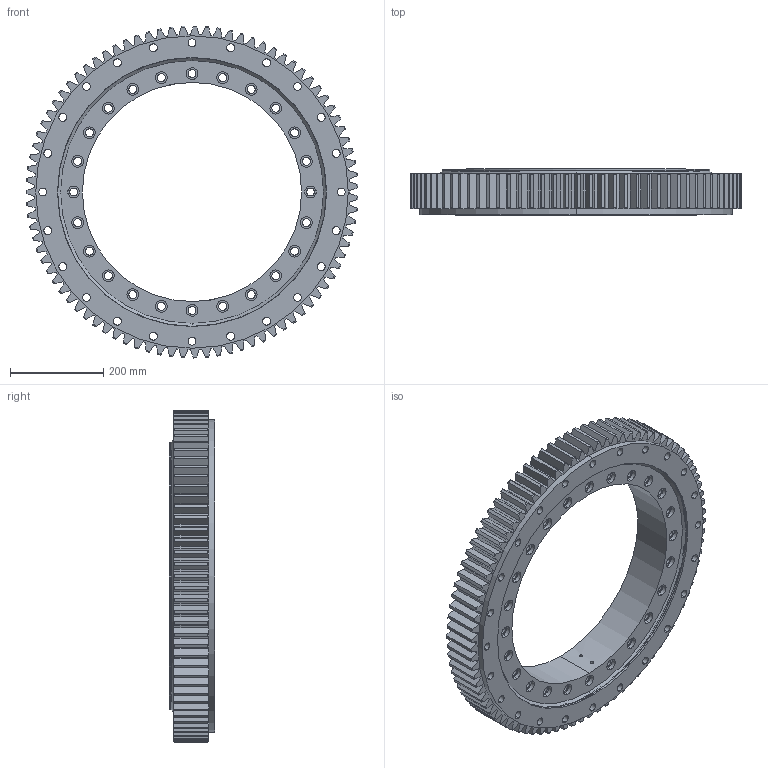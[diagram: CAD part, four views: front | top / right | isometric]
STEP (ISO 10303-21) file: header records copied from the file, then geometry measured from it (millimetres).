
FILE_DESCRIPTION (( 'STEP AP214' ), '1' );
FILE_NAME ('B2222-2-0712BB.STEP', '2022-11-28T14:40:29', ( '' ), ( '' ), 'SwSTEP 2.0', 'SolidWorks 2020', '' );
FILE_SCHEMA (( 'AUTOMOTIVE_DESIGN' ));
Length unit declared in the file: millimetre
Products named in the file (1): B2222-2-0712BB
Bounding box: 711.87 x 98 x 711.97 mm (x, y, z)
Volume: 16467309 mm3; surface area: 1587280.6 mm2
Topology: 4 solids, 4 shells, 827 faces, 2270 edges, 1512 vertices
Faces by surface type: cylinder 315, cone 182, bspline 174, plane 156
Entity records: 27685 total; most frequent: CARTESIAN_POINT 7476, ORIENTED_EDGE 4540, DIRECTION 3682, EDGE_CURVE 2270, VERTEX_POINT 1512, AXIS2_PLACEMENT_3D 1462, EDGE_LOOP 992, FACE_OUTER_BOUND 827
